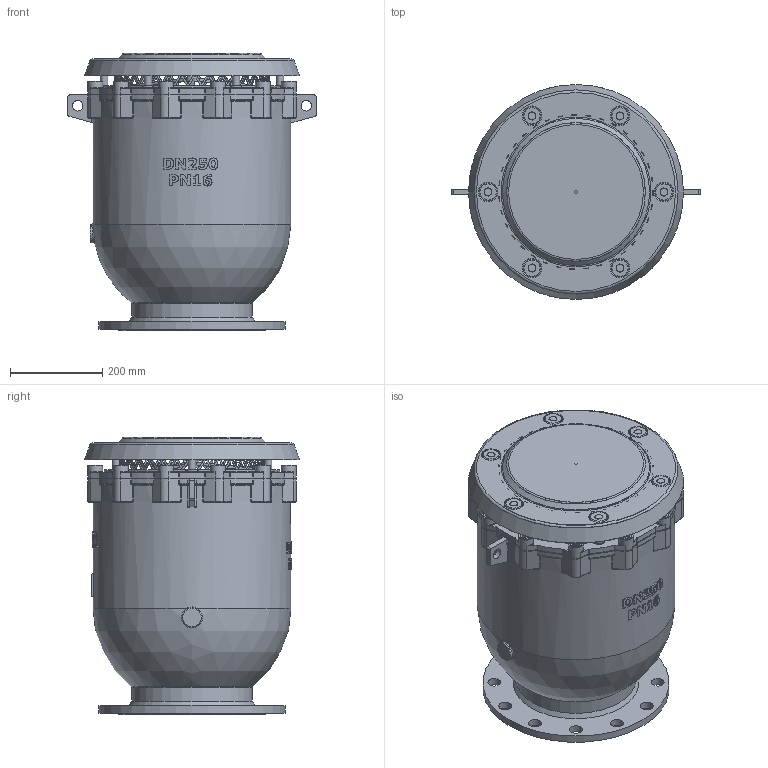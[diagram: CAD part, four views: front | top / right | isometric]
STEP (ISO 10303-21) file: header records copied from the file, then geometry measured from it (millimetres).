
FILE_DESCRIPTION(('STEP AP242'), '1');
FILE_NAME('Âîçäóøíûé êëàïàí DUOJET KX', '', ('UNSPECIFIED'), ('UNSPECIFIED'), 'C3D Converter', 'C3D Toolkit', '');
FILE_SCHEMA(('AP242_MANAGED_MODEL_BASED_3D_ENGINEERING_MIM_LF { 1 0 10303 442 1 1 4 }'));
Length unit declared in the file: millimetre
Assembly tree (45 placements, depth 2):
  (unnamed)
    (unnamed)
    (unnamed)
    (unnamed)
    (unnamed)
    (unnamed)
    (unnamed)
    (unnamed)  x6
    (unnamed)  x6
    (unnamed)
    (unnamed)
    (unnamed)
    (unnamed)  x5
    (unnamed)  x7
    (unnamed)  x6
    (unnamed)  x6
Bounding box: 539 x 467 x 602 mm (x, y, z)
Volume: 11333864.8 mm3; surface area: 4793799.1 mm2
Topology: 59 solids, 60 shells, 2163 faces, 5581 edges, 3594 vertices
Faces by surface type: plane 764, cylinder 528, bspline 519, extrusion 150, torus 107, cone 82, sphere 13
Full cylindrical faces by diameter (mm): 6 x3, 9 x2, 10 x18, 10.5 x6, 11 x12, 12 x6, 16 x54, 22.883 x2, 24 x12, 25.6 x12, 28 x12, 30 x6, 32 x12, 40 x1, 41.117 x1, 62.5 x2, 68.5 x1, 250 x2, 262 x1, 334 x2, 336 x1, 343 x2, 349 x1, 366 x1, 370 x2, 382 x2, 405 x1, 416 x2, 418 x3, 430 x1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
Entity records: 151018 total; most frequent: CARTESIAN_POINT 105820, ORIENTED_EDGE 9248, DIRECTION 6571, EDGE_CURVE 4624, VERTEX_POINT 3106, AXIS2_PLACEMENT_3D 2519, EDGE_LOOP 2309, B_SPLINE_CURVE_WITH_KNOTS 2039
